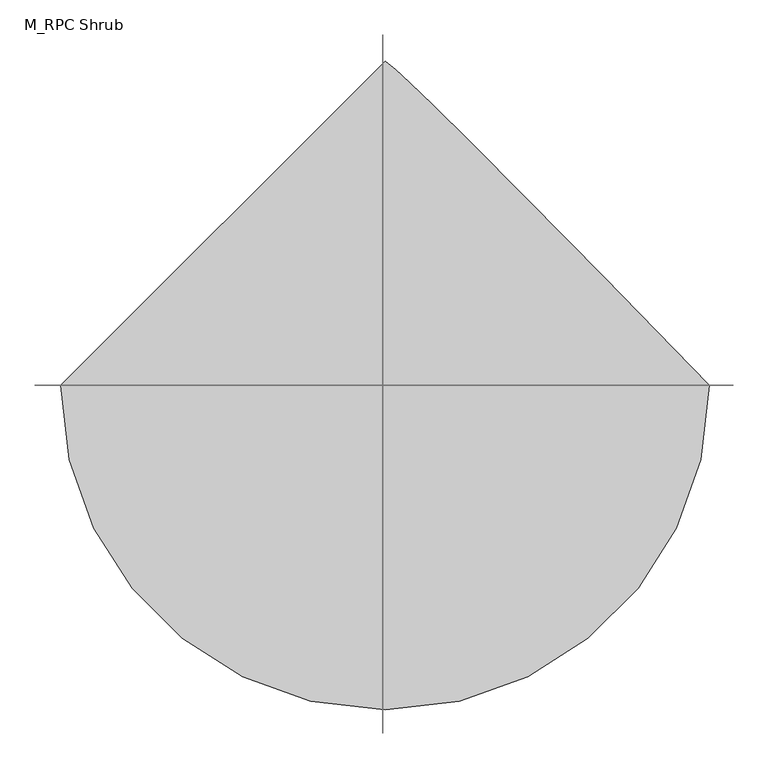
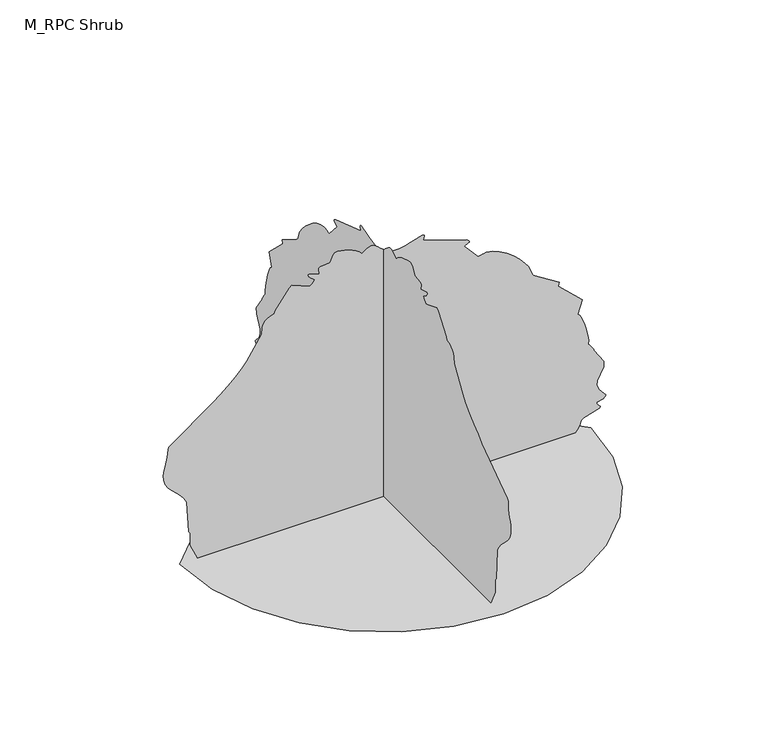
"""IFC4 building model written with IfcOpenShell, lengths in millimetres: geographic element geometry, M_RPC Shrub : Holly - 4.5 Meters."""

from ifc_helpers import new_model, si_unit, origin, place, context, project, spatial, triangles, source, transform, mapped, element, save


def m_rpc_shrub_826c47de(model_context):
    return source(origin(), model_context, "Body", "Tessellation", [
        triangles([(-3359.5830162, 0.0, 0.0005611), (-3270.7709953, -769.7942917, 0.0005611), (-3017.8169586, -1476.7290482, 0.0005611), (-2620.988855, -2100.5460583, 0.0005611), (-2100.5460583, -2620.988855, 0.0005611), (-1476.7290482, -3017.8169586, 0.0005611), (-769.7942917, -3270.7619843, 0.0005611), (0.0001469, -3359.5830162, 0.0005611), (769.7942917, -3270.7709953, 0.0005611), (1476.7290482, -3017.8169586, 0.0005611), (2100.5460583, -2620.988855, 0.0005611), (2620.988855, -2100.5460583, 0.0005611), (3017.8169586, -1476.7290482, 0.0005611), (3270.7619843, -769.7942917, 0.0005611), (3359.5830162, 0.0002937, 0.0005611), (2267.7929718, 1119.9059881, 0.0005611), (1458.3960102, 1944.4500629, 0.0005611), (884.3219667, 2522.8439735, 0.0005611), (498.5127036, 2904.3270836, 0.0005611), (253.8990008, 3138.1290916, 0.0005611), (103.4162984, 3273.4711212, 0.0005611), (-0.0004406, 3359.5830162, 0.0005611), (-26.6055299, -691.569924, 4490.2169106), (-26.6055299, -635.1317991, 4476.2578789), (-26.6055299, -574.1234954, 4456.880864), (-26.6055299, -511.9325967, 4431.8161148), (-26.6055299, -451.9539176, 4400.8200417), (-26.6055299, -397.5759141, 4363.6319046), (-26.6055299, -352.190712, 4319.9909637), (-26.6055299, -341.3060929, 4325.220005), (-26.6055299, -322.9802856, 4338.5401222), (-26.6055299, -299.5281016, 4356.4680977), (-26.6055299, -273.2579936, 4375.4759491), (-26.6055299, -246.4874983, 4392.063018), (-26.6055299, -221.525995, 4402.7010315), (-26.6055299, -200.6864967, 4403.9070625), (-26.6055299, -170.6094081, 4397.4719902), (-26.6055299, -134.6724029, 4377.0868973), (-26.6055299, -94.4702965, 4346.5591095), (-26.6055299, -51.5924995, 4309.7040916), (-26.6055299, -7.6357797, 4270.3288788), (-26.6055299, 35.8098305, 4232.2410873), (-26.6055299, 77.1504325, 4199.2558914), (-26.6055299, 159.2045992, 4185.1439621), (-26.6055299, 252.6165028, 4191.6868767), (-26.6055299, 350.0235114, 4211.928083), (-26.6055299, 444.0635925, 4238.8651016), (-26.6055299, 632.3589306, 4290.1558662), (-26.6055299, 651.9843315, 4287.8249039), (-26.6055299, 661.4261971, 4276.5750092), (-26.6055299, 663.295487, 4259.6821449), (-26.6055299, 647.2755346, 4200.6508644), (-26.6055299, 1357.6050694, 3959.7030716), (-26.6055299, 1393.1460686, 3932.1358589), (-26.6055299, 1399.6619499, 3917.5289017), (-26.6055299, 1395.6659729, 3905.3249954), (-26.6055299, 1384.0380489, 3894.8669128), (-26.6055299, 1318.5629757, 3857.5529114), (-26.6055299, 1542.3209747, 3603.9599602), (-26.6055299, 1551.0060551, 3605.0939026), (-26.6055299, 1567.0979507, 3608.1629013), (-26.6055299, 1588.2659901, 3612.6178619), (-26.6055299, 1612.143021, 3617.937014), (-26.6055299, 1636.3800591, 3623.5980057), (-26.6055299, 1658.6459965, 3629.0610443), (-26.6055299, 1676.5739719, 3633.7950577), (-26.6055299, 1780.5330334, 3616.1548553), (-26.6055299, 1892.9700657, 3568.274929), (-26.6055299, 2007.7919815, 3497.6879585), (-26.6055299, 2118.9149952, 3411.9449364), (-26.6055299, 2220.2730526, 3318.5881348), (-26.6055299, 2305.7550442, 3225.1499428), (-26.6055299, 2369.3040722, 3139.1819344), (-26.6055299, 2432.7090683, 2969.9640656), (-26.6055299, 2869.9739479, 2693.9968987), (-26.6055299, 2855.0518936, 2634.3269943), (-26.6055299, 3242.9069984, 2261.3849327), (-26.6055299, 3168.3240509, 2037.6269337), (-26.6055299, 3201.794973, 2011.0320454), (-26.6055299, 3238.9560768, 1941.047945), (-26.6055299, 3276.0090477, 1842.4080357), (-26.6055299, 3309.1648727, 1729.8449936), (-26.6055299, 3334.6351204, 1618.0740543), (-26.6055299, 3348.6208946, 1521.8370506), (-26.6055299, 3347.3250435, 1455.8490726), (-26.6055299, 3357.9360237, 1447.1189369), (-26.6055299, 3371.9220886, 1431.2520275), (-26.6055299, 3387.6900215, 1410.5159386), (-26.6055299, 3403.6559074, 1387.188002), (-26.6055299, 3418.2361221, 1363.5359573), (-26.6055299, 3429.819136, 1341.8460022), (-26.6055299, 3436.8300453, 1324.3860214), (-26.6055299, 3599.9910164, 1079.181003), (-26.6055299, 3592.962085, 980.5320099), (-26.6055299, 3488.1571449, 775.7198748), (-26.6055299, 3484.5210297, 702.688504), (-26.6055299, 3526.1370941, 609.7013746), (-26.6055299, 3630.7621033, 486.2169062), (-26.6055299, 3624.5970726, 463.6395052), (-26.6055299, 3608.1989456, 446.4764903), (-26.6055299, 3584.673056, 433.8647964), (-26.6055299, 3481.5869064, 411.6294168), (-26.6055299, 3481.3081444, 390.934786), (-26.6055299, 3489.3181206, 373.4963882), (-26.6055299, 3539.9970039, 320.3397128), (-26.6055299, 3541.2571014, 307.2078109), (-26.6055299, 3525.2729027, 289.1961014), (-26.6055299, 3268.3048668, 213.9452986), (-26.6055299, 3227.9849442, 187.8686926), (-26.6055299, 3224.2409866, 160.2152933), (-26.6055299, 3215.7630157, 133.0199965), (-26.6055299, 3203.3608658, 106.2071982), (-26.6055299, 3187.799897, 79.6992323), (-26.6055299, 3169.8719215, 53.4212078), (-26.6055299, 3150.3780533, 27.2956495), (-26.6055299, 3130.0920822, 1.246446), (-26.6055299, -3036.861145, 0.0), (-26.6055299, -3156.6689484, 262.4552918), (-26.6055299, -3156.6689484, 471.2993937), (-26.6055299, -3181.3741264, 503.4645089), (-26.6055299, -3213.5398956, 1021.3830048), (-26.6055299, -3253.7429649, 1099.5929838), (-26.6055299, -3312.2428825, 1171.2330151), (-26.6055299, -3380.9578743, 1239.2999359), (-26.6055299, -3451.7881439, 1306.809042), (-26.6055299, -3516.6780785, 1376.7569527), (-26.6055299, -3567.5278816, 1452.1590363), (-26.6055299, -3596.265081, 1536.0299343), (-26.6055299, -3601.3589561, 1608.7859585), (-26.6055299, -3594.4201355, 1676.2770424), (-26.6055299, -3579.7050453, 1739.6820385), (-26.6055299, -3561.4980171, 1800.1979668), (-26.6055299, -3531.7169861, 1917.279047), (-26.6055299, -3520.9978729, 2043.369025), (-26.6055299, -3506.813855, 2076.5879276), (-26.6055299, -3496.2659523, 2087.6219925), (-26.6055299, -2780.5049904, 2598.3629105), (-26.6055299, -2671.0201035, 2690.6491379), (-26.6055299, -2547.8729691, 2796.5790092), (-26.6055299, -2424.9419552, 2908.5480469), (-26.6055299, -2316.0779606, 3018.9328789), (-26.6055299, -2235.1500515, 3120.1290276), (-26.6055299, -1993.1040699, 3499.5329041), (-26.6055299, -1983.1770596, 3616.7580162), (-26.6055299, -1967.5710354, 3665.3038902), (-26.6055299, -1942.0019566, 3706.5871262), (-26.6055299, -1904.3549812, 3740.228968), (-26.6055299, -1852.4879436, 3765.8250801), (-26.6055299, -1784.2589687, 3782.9699638), (-26.6055299, -1772.89193, 3832.7579132), (-26.6055299, -1542.510062, 4136.78703), (-26.6055299, -1500.8310654, 4170.8160576), (-26.6055299, -1202.481035, 4051.4759583), (-26.6055299, -1192.4549755, 4056.6058777), (-26.6055299, -1180.0350214, 4066.9380959), (-26.6055299, -1166.5260349, 4080.8881165), (-26.6055299, -1127.8980148, 4140.9809601), (-26.6055299, -1201.005035, 4197.8609184), (-26.6055299, -1221.0299755, 4220.5319183), (-26.6055299, -1232.9369522, 4242.0960091), (-26.6055299, -1232.3160599, 4260.3210594), (-26.6055299, -1215.8999834, 4266.3329018), (-26.6055299, -1053.3059835, 4215.5729187), (-26.6055299, -1060.6949947, 4297.7789474), (-26.6055299, -1058.6249903, 4310.5860146), (-26.6055299, -1053.3059835, 4319.9909637), (-26.6055299, -1036.9890289, 4327.6320671), (-26.6055299, -883.1492912, 4347.6029411), (-26.6055299, -874.3004854, 4349.8260612), (-26.6055299, -819.3077665, 4458.6900558), (-26.6055299, -794.898864, 4484.8079384), (-26.6055299, -768.1544935, 4500.0000343), (-26.6055299, -740.0439274, 4499.0009674), (-718.1747681, -0.0002812, 4490.2169106), (-661.7367159, -0.0002799, 4476.2578789), (-600.7284122, -0.0002788, 4456.880864), (-538.5375134, -0.0002777, 4431.8161148), (-478.558798, -0.0002764, 4400.8200417), (-424.1817029, -0.0002747, 4363.6319046), (-378.7965008, -0.0002723, 4319.9909637), (-367.9119181, -0.0002725, 4325.220005), (-349.5861108, -0.000273, 4338.5401222), (-326.1330002, -0.0002737, 4356.4680977), (-299.8628922, -0.0002746, 4375.4759491), (-273.0933053, -0.0002756, 4392.063018), (-248.1308936, -0.0002765, 4402.7010315), (-227.2923037, -0.0002773, 4403.9070625), (-197.2143067, -0.0002746, 4397.4719902), (-161.2772924, -0.0002724, 4377.0868973), (-121.0752042, -0.0002707, 4346.5591095), (-78.1977614, -0.0002693, 4309.7040916), (-34.24104, -0.000268, 4270.3288788), (9.2045702, -0.0002667, 4232.2410873), (50.5451706, -0.0002651, 4199.2558914), (132.5988013, -0.0002642, 4185.1439621), (226.0106958, -0.0002645, 4191.6868767), (323.4185946, -0.0002655, 4211.928083), (417.4587121, -0.000267, 4238.8651016), (605.7531054, -0.0002705, 4290.1558662), (625.37847, -0.00027, 4287.8249039), (634.8204082, -0.0002691, 4276.5750092), (636.6896982, -0.0002682, 4259.6821449), (620.6706179, -0.0002652, 4200.6508644), (1331.0010246, -0.00025, 3959.7030716), (1366.5420238, -0.0002492, 3932.1358589), (1373.0580505, -0.0002487, 3917.5289017), (1369.0619282, -0.0002481, 3905.3249954), (1357.4340042, -0.0002475, 3894.8669128), (1291.958931, -0.0002447, 3857.5529114), (1515.71693, -0.0002296, 3603.9599602), (1524.4020103, -0.0002297, 3605.0939026), (1540.4940514, -0.0002299, 3608.1629013), (1561.6619453, -0.0002301, 3612.6178619), (1585.5389763, -0.0002305, 3617.937014), (1609.7760143, -0.0002308, 3623.5980057), (1632.0419518, -0.0002311, 3629.0610443), (1649.9700726, -0.0002314, 3633.7950577), (1753.9289886, -0.0002304, 3616.1548553), (1866.366021, -0.0002275, 3568.274929), (1981.1879368, -0.0002233, 3497.6879585), (2092.3109505, -0.0002182, 3411.9449364), (2193.6599968, -0.0002126, 3318.5881348), (2279.1509995, -0.000207, 3225.1499428), (2342.7000275, -0.0002019, 3139.1819344), (2406.0960125, -0.0001918, 2969.9640656), (2843.3700485, -0.0001754, 2693.9968987), (2828.4479942, -0.0001718, 2634.3269943), (3216.3030991, -0.0001496, 2261.3939438), (3141.7111404, -0.0001363, 2037.6269337), (3175.1910736, -0.0001347, 2011.0320454), (3212.3518867, -0.0001305, 1941.047945), (3249.4048576, -0.0001246, 1842.4080357), (3282.5609734, -0.0001179, 1729.8449936), (3308.0219193, -0.0001113, 1618.0740543), (3322.0079842, -0.0001055, 1521.8370506), (3320.7211441, -0.0001016, 1455.8490726), (3331.3321243, -0.0001011, 1447.1189369), (3345.3178986, -0.0001001, 1431.2520275), (3361.0861221, -9.89e-05, 1410.5159386), (3377.0520081, -9.75e-05, 1387.188002), (3391.622921, -9.61e-05, 1363.5359573), (3403.214946, -9.48e-05, 1341.8460022), (3410.2258553, -9.38e-05, 1324.3860214), (3573.387117, -7.91e-05, 1079.181003), (3566.3578949, -7.33e-05, 980.5320099), (3461.5529549, -6.1e-05, 775.7198748), (3457.9171303, -5.67e-05, 702.688504), (3499.5329041, -5.12e-05, 609.7013746), (3604.1579132, -4.38e-05, 486.2169062), (3597.9928825, -4.24e-05, 463.6395052), (3581.5950462, -4.14e-05, 446.4773987), (3558.068866, -4.07e-05, 433.8647964), (3454.983007, -3.93e-05, 411.6302888), (3454.7039543, -3.92e-05, 390.934786), (3462.7139305, -3.84e-05, 373.4963882), (3513.3931046, -3.34e-05, 320.3405849), (3514.6529114, -3.31e-05, 307.2078109), (3498.6690033, -3.21e-05, 289.1961014), (3241.7009674, -2.66e-05, 213.9452986), (3201.3810448, -2.6e-05, 187.8686926), (3197.6370872, -2.66e-05, 160.2152933), (3189.1591164, -2.65e-05, 133.0199965), (3176.7479553, -2.58e-05, 106.2071982), (3161.1959976, -2.46e-05, 79.6994139), (3143.2680222, -2.31e-05, 53.4214803), (3123.7738632, -2.13e-05, 27.2958289), (3103.4878922, -1.94e-05, 1.24668), (-3063.4650444, -1.45e-05, 0.000238), (-3183.2731384, -3.05e-05, 262.4562002), (-3183.2731384, -4.29e-05, 471.2993937), (-3207.9780258, -4.48e-05, 503.4645089), (-3240.1440857, -7.57e-05, 1021.3830048), (-3280.3558754, -8.04e-05, 1099.6019949), (-3338.8470726, -8.46e-05, 1171.2330151), (-3407.5620644, -8.87e-05, 1239.2999359), (-3478.4010544, -9.27e-05, 1306.809042), (-3543.2819778, -9.69e-05, 1376.7569527), (-3594.1320717, -0.0001014, 1452.1590363), (-3622.8689804, -0.0001064, 1536.0299343), (-3627.9628555, -0.0001107, 1608.7859585), (-3621.0240349, -0.0001147, 1676.2770424), (-3606.3089447, -0.0001185, 1739.6820385), (-3588.1019165, -0.0001221, 1800.1979668), (-3558.3208855, -0.0001291, 1917.279047), (-3547.6110741, -0.0001367, 2043.369025), (-3533.418045, -0.0001388, 2076.5879276), (-3522.8788628, -0.0001395, 2087.6219925), (-2807.1088898, -0.000171, 2598.3629105), (-2697.6240028, -0.0001774, 2690.6491379), (-2574.4768684, -0.0001845, 2796.5790092), (-2451.5459999, -0.0001917, 2908.5480469), (-2342.6820053, -0.0001982, 3018.9328789), (-2261.7539509, -0.0002035, 3120.1290276), (-2019.7079693, -0.0002234, 3499.5329041), (-2009.7809589, -0.0002304, 3616.7580162), (-1994.1749348, -0.0002333, 3665.3038902), (-1968.6060013, -0.0002357, 3706.5871262), (-1930.959026, -0.0002377, 3740.228968), (-1879.0919884, -0.0002393, 3765.8250801), (-1810.8720245, -0.0002403, 3782.9699638), (-1799.4959747, -0.0002433, 3832.7579132), (-1569.1229725, -0.0002614, 4136.78703), (-1527.4349648, -0.0002634, 4170.8160576), (-1229.0850071, -0.0002563, 4051.4759583), (-1219.0590202, -0.0002566, 4056.6058777), (-1206.6389935, -0.0002572, 4066.9380959), (-1193.130007, -0.0002581, 4080.8881165), (-1154.5019869, -0.0002616, 4140.9809601), (-1227.6089344, -0.0002649, 4197.8609184), (-1247.6340202, -0.0002663, 4220.5319183), (-1259.5409969, -0.0002676, 4242.0960091), (-1258.9199593, -0.0002687, 4260.3210594), (-1242.5039555, -0.0002682, 4266.3329018), (-1079.9189667, -0.0002661, 4215.5729187), (-1087.2989668, -0.0002702, 4297.7789474), (-1085.229035, -0.0002712, 4310.5860146), (-1079.9189667, -0.0002723, 4319.9909637), (-1063.593001, -0.0002723, 4327.6320671), (-909.7560247, -0.0002739, 4347.6029411), (-900.9090357, -0.0002741, 4349.8260612), (-845.9126833, -0.0002784, 4458.6900558), (-821.5047255, -0.0002799, 4484.8079384), (-794.7602823, -0.0002814, 4500.0000343), (-766.6497162, -0.000283, 4499.0009674)], [[21, 22, 1], [20, 21, 1], [19, 20, 1], [18, 19, 1], [17, 18, 1], [17, 1, 2], [17, 2, 3], [17, 3, 4], [16, 17, 4], [16, 4, 5], [16, 5, 6], [16, 6, 7], [16, 7, 8], [16, 8, 9], [16, 9, 10], [16, 10, 11], [16, 11, 12], [15, 16, 12], [14, 15, 12], [13, 14, 12], [74, 75, 76], [160, 161, 162], [116, 117, 118], [116, 118, 119], [76, 77, 78], [159, 160, 162], [158, 159, 162], [157, 158, 162], [157, 162, 163], [151, 152, 153], [115, 116, 119], [114, 115, 119], [113, 114, 119], [112, 113, 119], [111, 112, 119], [110, 111, 119], [109, 110, 119], [97, 98, 99], [97, 99, 100], [97, 100, 101], [97, 101, 102], [109, 119, 120], [109, 120, 121], [109, 121, 122], [105, 106, 107], [104, 105, 107], [104, 107, 108], [103, 104, 108], [150, 151, 153], [149, 150, 153], [48, 49, 50], [48, 50, 51], [48, 51, 52], [47, 48, 52], [109, 122, 123], [54, 55, 56], [54, 56, 57], [53, 54, 57], [53, 57, 58], [52, 53, 58], [108, 109, 123], [102, 103, 108], [92, 93, 94], [92, 94, 95], [96, 97, 102], [96, 102, 108], [96, 108, 123], [95, 96, 123], [92, 95, 123], [91, 92, 123], [90, 91, 123], [89, 90, 123], [88, 89, 123], [87, 88, 123], [86, 87, 123], [85, 86, 123], [84, 85, 123], [83, 84, 123], [82, 83, 123], [81, 82, 123], [80, 81, 123], [79, 80, 123], [78, 79, 123], [76, 78, 123], [74, 76, 123], [73, 74, 123], [72, 73, 123], [71, 72, 123], [70, 71, 123], [69, 70, 123], [68, 69, 123], [67, 68, 123], [66, 67, 123], [65, 66, 123], [64, 65, 123], [63, 64, 123], [62, 63, 123], [61, 62, 123], [60, 61, 123], [59, 60, 123], [58, 59, 123], [52, 58, 123], [47, 52, 123], [46, 47, 123], [45, 46, 123], [44, 45, 123], [43, 44, 123], [42, 43, 123], [41, 42, 123], [40, 41, 123], [39, 40, 123], [38, 39, 123], [37, 38, 123], [36, 37, 123], [35, 36, 123], [34, 35, 123], [33, 34, 123], [32, 33, 123], [31, 32, 123], [30, 31, 123], [29, 30, 123], [29, 123, 124], [28, 29, 124], [27, 28, 124], [26, 27, 124], [25, 26, 124], [24, 25, 124], [23, 24, 124], [173, 23, 124], [173, 124, 125], [173, 125, 126], [165, 166, 167], [164, 165, 167], [163, 164, 167], [163, 167, 168], [171, 172, 173], [170, 171, 173], [169, 170, 173], [169, 173, 126], [168, 169, 126], [168, 126, 127], [168, 127, 128], [168, 128, 129], [168, 129, 130], [168, 130, 131], [168, 131, 132], [145, 146, 147], [145, 147, 148], [144, 145, 148], [144, 148, 149], [143, 144, 149], [143, 149, 153], [142, 143, 153], [134, 135, 136], [133, 134, 136], [133, 136, 137], [132, 133, 137], [142, 153, 154], [156, 157, 163], [156, 163, 168], [141, 142, 154], [132, 137, 138], [132, 138, 139], [141, 154, 155], [140, 141, 155], [155, 156, 168], [155, 168, 132], [140, 155, 132], [140, 132, 139], [225, 226, 227], [311, 312, 313], [267, 268, 269], [267, 269, 270], [227, 228, 229], [310, 311, 313], [309, 310, 313], [308, 309, 313], [308, 313, 314], [302, 303, 304], [266, 267, 270], [265, 266, 270], [264, 265, 270], [263, 264, 270], [262, 263, 270], [261, 262, 270], [260, 261, 270], [248, 249, 250], [248, 250, 251], [248, 251, 252], [248, 252, 253], [260, 270, 271], [260, 271, 272], [260, 272, 273], [256, 257, 258], [255, 256, 258], [255, 258, 259], [254, 255, 259], [301, 302, 304], [300, 301, 304], [199, 200, 201], [199, 201, 202], [199, 202, 203], [198, 199, 203], [260, 273, 274], [205, 206, 207], [205, 207, 208], [204, 205, 208], [204, 208, 209], [203, 204, 209], [259, 260, 274], [253, 254, 259], [243, 244, 245], [243, 245, 246], [247, 248, 253], [247, 253, 259], [247, 259, 274], [246, 247, 274], [243, 246, 274], [242, 243, 274], [241, 242, 274], [240, 241, 274], [239, 240, 274], [238, 239, 274], [237, 238, 274], [236, 237, 274], [235, 236, 274], [234, 235, 274], [233, 234, 274], [232, 233, 274], [231, 232, 274], [230, 231, 274], [229, 230, 274], [227, 229, 274], [225, 227, 274], [224, 225, 274], [223, 224, 274], [222, 223, 274], [221, 222, 274], [220, 221, 274], [219, 220, 274], [218, 219, 274], [217, 218, 274], [216, 217, 274], [215, 216, 274], [214, 215, 274], [213, 214, 274], [212, 213, 274], [211, 212, 274], [210, 211, 274], [209, 210, 274], [203, 209, 274], [198, 203, 274], [197, 198, 274], [196, 197, 274], [195, 196, 274], [194, 195, 274], [193, 194, 274], [192, 193, 274], [191, 192, 274], [190, 191, 274], [189, 190, 274], [188, 189, 274], [187, 188, 274], [186, 187, 274], [185, 186, 274], [184, 185, 274], [183, 184, 274], [182, 183, 274], [181, 182, 274], [180, 181, 274], [180, 274, 275], [179, 180, 275], [178, 179, 275], [177, 178, 275], [176, 177, 275], [175, 176, 275], [174, 175, 275], [324, 174, 275], [324, 275, 276], [324, 276, 277], [316, 317, 318], [315, 316, 318], [314, 315, 318], [314, 318, 319], [322, 323, 324], [321, 322, 324], [320, 321, 324], [320, 324, 277], [319, 320, 277], [319, 277, 278], [319, 278, 279], [319, 279, 280], [319, 280, 281], [319, 281, 282], [319, 282, 283], [296, 297, 298], [296, 298, 299], [295, 296, 299], [295, 299, 300], [294, 295, 300], [294, 300, 304], [293, 294, 304], [285, 286, 287], [284, 285, 287], [284, 287, 288], [283, 284, 288], [293, 304, 305], [307, 308, 314], [307, 314, 319], [292, 293, 305], [283, 288, 289], [283, 289, 290], [292, 305, 306], [291, 292, 306], [306, 307, 319], [306, 319, 283], [291, 306, 283], [291, 283, 290]], closed=False),
    ])


if __name__ == "__main__":
    model = new_model("IFC4")
    model_context = context("Model", 3, world=origin())
    ifc_project = project(units=[si_unit("LENGTHUNIT", "METRE", prefix="MILLI")], contexts=[model_context])
    site = spatial("IfcSite", under=ifc_project)
    building = spatial("IfcBuilding", under=site)
    placement = place(None, origin())
    m_rpc_shrub_shape = m_rpc_shrub_826c47de(model_context)
    element("IfcGeographicElement", 1, ObjectType="M_RPC Shrub : Holly - 4.5 Meters", at=placement, inside=building, context=model_context, shape_type="MappedRepresentation", body=[
        mapped(m_rpc_shrub_shape, transform((0.0, 0.0, 0.0), x_axis=(1.0, 0.0, 0.0), y_axis=(0.0, 1.0, 0.0), z_axis=(0.0, 0.0, 1.0))),
    ])
    save(model, "model.ifc")
